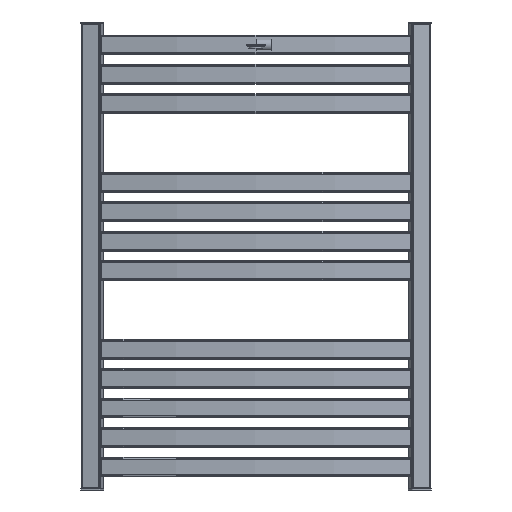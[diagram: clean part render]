
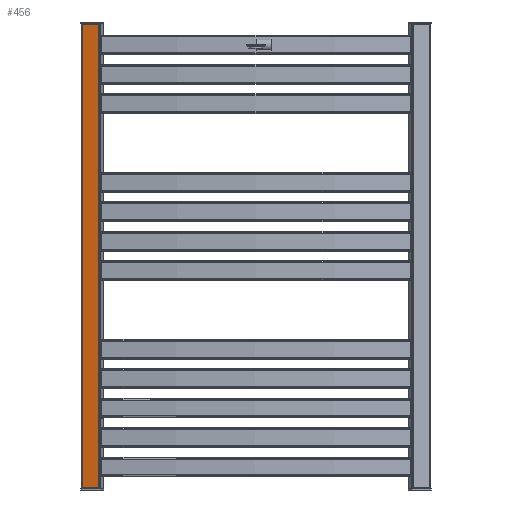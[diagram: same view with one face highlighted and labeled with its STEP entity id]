
A CAD part, front view. The second image highlights one B-rep face of the part: STEP entity #456.
In plain terms, the highlighted planar face has unit normal (-0.205, -0.979, 0) as drawn and (1, 0, 0) by its records, which use the part's own axes.
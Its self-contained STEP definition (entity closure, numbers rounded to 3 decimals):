
#456 = ADVANCED_FACE( '', ( #979 ), #980, .T. );
#979 = FACE_OUTER_BOUND( '', #1561, .T. );
#980 = PLANE( '', #1562 );
#1561 = EDGE_LOOP( '', ( #2938, #2939, #2940, #2941 ) );
#1562 = AXIS2_PLACEMENT_3D( '', #2942, #2943, #2944 );
#2938 = ORIENTED_EDGE( '', *, *, #3830, .T. );
#2939 = ORIENTED_EDGE( '', *, *, #3831, .T. );
#2940 = ORIENTED_EDGE( '', *, *, #3743, .F. );
#2941 = ORIENTED_EDGE( '', *, *, #3832, .T. );
#2942 = CARTESIAN_POINT( '', ( 15., 711., -15. ) );
#2943 = DIRECTION( '', ( 1., 0., 0. ) );
#2944 = DIRECTION( '', ( 0., 0., -1. ) );
#3743 = EDGE_CURVE( '', #4630, #4631, #4632, .T. );
#3830 = EDGE_CURVE( '', #4730, #4731, #4732, .T. );
#3831 = EDGE_CURVE( '', #4731, #4631, #4733, .T. );
#3832 = EDGE_CURVE( '', #4630, #4730, #4734, .F. );
#4630 = VERTEX_POINT( '', #5764 );
#4631 = VERTEX_POINT( '', #5765 );
#4632 = LINE( '', #5766, #5767 );
#4730 = VERTEX_POINT( '', #5895 );
#4731 = VERTEX_POINT( '', #5896 );
#4732 = LINE( '', #5897, #5898 );
#4733 = LINE( '', #5899, #5900 );
#4734 = LINE( '', #5901, #5902 );
#5764 = CARTESIAN_POINT( '', ( 15., 0., -12. ) );
#5765 = CARTESIAN_POINT( '', ( 15., 0., 12. ) );
#5766 = CARTESIAN_POINT( '', ( 15., 0., -15. ) );
#5767 = VECTOR( '', #6651, 1000. );
#5895 = CARTESIAN_POINT( '', ( 15., 711., -12. ) );
#5896 = CARTESIAN_POINT( '', ( 15., 711., 12. ) );
#5897 = CARTESIAN_POINT( '', ( 15., 711., -15. ) );
#5898 = VECTOR( '', #6733, 1000. );
#5899 = CARTESIAN_POINT( '', ( 15., 711., 12. ) );
#5900 = VECTOR( '', #6734, 1000. );
#5901 = CARTESIAN_POINT( '', ( 15., 711., -12. ) );
#5902 = VECTOR( '', #6735, 1000. );
#6651 = DIRECTION( '', ( 0., 0., 1. ) );
#6733 = DIRECTION( '', ( 0., 0., 1. ) );
#6734 = DIRECTION( '', ( 0., -1., 0. ) );
#6735 = DIRECTION( '', ( 0., -1., 0. ) );
